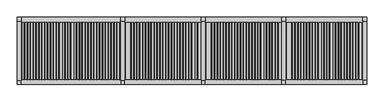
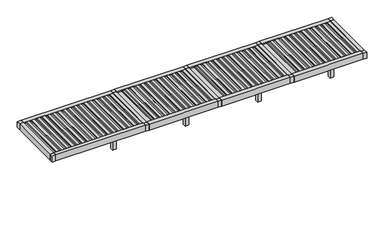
"""IFC4 building model written with IfcOpenShell, lengths in millimetres: proxy geometry, Renson_Camargue_Skye_Facade-Mounted_Patio covers : Renson_Camargue_Skye_Facade-Mounted_Patio covers."""

from ifc_helpers import new_model, si_unit, point, frame, frame_2d, origin, origin_with_axes, place, context, project, spatial, polyline, circle_curve, trimmed, segment, composite_curve, outline, extrude, source, transform, mapped, element, save


def generic_models_8b32eeaf(model_context):
    return source(origin(), model_context, "Body", "SweptSolid", [
        extrude(outline(composite_curve([segment(polyline([(2458.35, 10573.7289238), (2486.01198, 10576.1490335), (2487.3970364, 10604.984284), (2506.8911096, 10601.5469529), (2501.6075693, 10491.549838)]), True, "CONTINUOUS"), segment(trimmed(circle_curve(frame_2d((2486.6248435, 10492.26951)), 15.0), [point((2501.6075693, 10491.549838))], [point((2489.2295662, 10477.4973937))], False, "CARTESIAN"), True, "CONTINUOUS"), segment(polyline([(2489.2295662, 10477.4973937), (2470.0, 10474.1067023), (2470.0, 10386.3709263), (2487.0788237, 10383.3594689), (2486.3450182, 10368.0824984), (2458.35, 10365.6332517), (2458.35, 10573.7289238)]), True, "CONTINUOUS")], self_intersect=False)), frame((0.0, -1080.0, 0.0), z_axis=(0.0, 1.0, 0.0), x_axis=(0.0, 0.0, 1.0)), (0.0, 0.0, 1.0), 2160.0),
        extrude(outline(composite_curve([segment(polyline([(2458.35, 10358.7132078), (2486.01198, 10361.1333174), (2487.3970364, 10389.9685679), (2506.8911096, 10386.5312368), (2501.6075693, 10276.534122)]), True, "CONTINUOUS"), segment(trimmed(circle_curve(frame_2d((2486.6248435, 10277.2537939)), 15.0), [point((2501.6075693, 10276.534122))], [point((2489.2295662, 10262.4816776))], False, "CARTESIAN"), True, "CONTINUOUS"), segment(polyline([(2489.2295662, 10262.4816776), (2470.0, 10259.0909863), (2470.0, 10171.3552102), (2487.0788237, 10168.3437528), (2486.3450182, 10153.0667824), (2458.35, 10150.6175356), (2458.35, 10358.7132078)]), True, "CONTINUOUS")], self_intersect=False)), frame((0.0, -1080.0, 0.0), z_axis=(0.0, 1.0, 0.0), x_axis=(0.0, 0.0, 1.0)), (0.0, 0.0, 1.0), 2160.0),
        extrude(outline(composite_curve([segment(polyline([(2458.35, 10143.6974917), (2486.01198, 10146.1176014), (2487.3970364, 10174.9528519), (2506.8911096, 10171.5155208), (2501.6075693, 10061.5184059)]), True, "CONTINUOUS"), segment(trimmed(circle_curve(frame_2d((2486.6248435, 10062.2380779)), 15.0), [point((2501.6075693, 10061.5184059))], [point((2489.2295662, 10047.4659616))], False, "CARTESIAN"), True, "CONTINUOUS"), segment(polyline([(2489.2295662, 10047.4659616), (2470.0, 10044.0752702), (2470.0, 9956.3394942), (2487.0788237, 9953.3280368), (2486.3450182, 9938.0510663), (2458.35, 9935.6018196), (2458.35, 10143.6974917)]), True, "CONTINUOUS")], self_intersect=False)), frame((0.0, -1080.0, 0.0), z_axis=(0.0, 1.0, 0.0), x_axis=(0.0, 0.0, 1.0)), (0.0, 0.0, 1.0), 2160.0),
        extrude(outline(composite_curve([segment(polyline([(2458.35, 9928.6817757), (2486.01198, 9931.1018854), (2487.3970364, 9959.9371358), (2506.8911096, 9956.4998047), (2501.6075693, 9846.5026899)]), True, "CONTINUOUS"), segment(trimmed(circle_curve(frame_2d((2486.6248435, 9847.2223618)), 15.0), [point((2501.6075693, 9846.5026899))], [point((2489.2295662, 9832.4502455))], False, "CARTESIAN"), True, "CONTINUOUS"), segment(polyline([(2489.2295662, 9832.4502455), (2470.0, 9829.0595542), (2470.0, 9741.3237782), (2487.0788237, 9738.3123207), (2486.3450182, 9723.0353503), (2458.35, 9720.5861035), (2458.35, 9928.6817757)]), True, "CONTINUOUS")], self_intersect=False)), frame((0.0, -1080.0, 0.0), z_axis=(0.0, 1.0, 0.0), x_axis=(0.0, 0.0, 1.0)), (0.0, 0.0, 1.0), 2160.0),
        extrude(outline(composite_curve([segment(polyline([(2458.35, 9713.6660597), (2486.01198, 9716.0861693), (2487.3970364, 9744.9214198), (2506.8911096, 9741.4840887), (2501.6075693, 9631.4869738)]), True, "CONTINUOUS"), segment(trimmed(circle_curve(frame_2d((2486.6248435, 9632.2066458)), 15.0), [point((2501.6075693, 9631.4869738))], [point((2489.2295662, 9617.4345295))], False, "CARTESIAN"), True, "CONTINUOUS"), segment(polyline([(2489.2295662, 9617.4345295), (2470.0, 9614.0438381), (2470.0, 9526.3080621), (2487.0788237, 9523.2966047), (2486.3450182, 9508.0196342), (2458.35, 9505.5703875), (2458.35, 9713.6660597)]), True, "CONTINUOUS")], self_intersect=False)), frame((0.0, -1080.0, 0.0), z_axis=(0.0, 1.0, 0.0), x_axis=(0.0, 0.0, 1.0)), (0.0, 0.0, 1.0), 2160.0),
        extrude(outline(composite_curve([segment(polyline([(2458.35, 9498.6503436), (2486.01198, 9501.0704533), (2487.3970364, 9529.9057037), (2506.8911096, 9526.4683726), (2501.6075693, 9416.4712578)]), True, "CONTINUOUS"), segment(trimmed(circle_curve(frame_2d((2486.6248435, 9417.1909297)), 15.0), [point((2501.6075693, 9416.4712578))], [point((2489.2295662, 9402.4188134))], False, "CARTESIAN"), True, "CONTINUOUS"), segment(polyline([(2489.2295662, 9402.4188134), (2470.0, 9399.0281221), (2470.0, 9311.2923461), (2487.0788237, 9308.2808886), (2486.3450182, 9293.0039182), (2458.35, 9290.5546714), (2458.35, 9498.6503436)]), True, "CONTINUOUS")], self_intersect=False)), frame((0.0, -1080.0, 0.0), z_axis=(0.0, 1.0, 0.0), x_axis=(0.0, 0.0, 1.0)), (0.0, 0.0, 1.0), 2160.0),
        extrude(outline(composite_curve([segment(polyline([(2458.35, 9283.6346276), (2486.01198, 9286.0547372), (2487.3970364, 9314.8899877), (2506.8911096, 9311.4526566), (2501.6075693, 9201.4555418)]), True, "CONTINUOUS"), segment(trimmed(circle_curve(frame_2d((2486.6248435, 9202.1752137)), 15.0), [point((2501.6075693, 9201.4555418))], [point((2489.2295662, 9187.4030974))], False, "CARTESIAN"), True, "CONTINUOUS"), segment(polyline([(2489.2295662, 9187.4030974), (2470.0, 9184.012406), (2470.0, 9096.27663), (2487.0788237, 9093.2651726), (2486.3450182, 9077.9882021), (2458.35, 9075.5389554), (2458.35, 9283.6346276)]), True, "CONTINUOUS")], self_intersect=False)), frame((0.0, -1080.0, 0.0), z_axis=(0.0, 1.0, 0.0), x_axis=(0.0, 0.0, 1.0)), (0.0, 0.0, 1.0), 2160.0),
        extrude(outline(composite_curve([segment(polyline([(2458.35, 9068.6189115), (2486.01198, 9071.0390212), (2487.3970364, 9099.8742716), (2506.8911096, 9096.4369406), (2501.6075693, 8986.4398257)]), True, "CONTINUOUS"), segment(trimmed(circle_curve(frame_2d((2486.6248435, 8987.1594976)), 15.0), [point((2501.6075693, 8986.4398257))], [point((2489.2295662, 8972.3873813))], False, "CARTESIAN"), True, "CONTINUOUS"), segment(polyline([(2489.2295662, 8972.3873813), (2470.0, 8968.99669), (2470.0, 8881.260914), (2487.0788237, 8878.2494566), (2486.3450182, 8862.9724861), (2458.35, 8860.5232394), (2458.35, 9068.6189115)]), True, "CONTINUOUS")], self_intersect=False)), frame((0.0, -1080.0, 0.0), z_axis=(0.0, 1.0, 0.0), x_axis=(0.0, 0.0, 1.0)), (0.0, 0.0, 1.0), 2160.0),
        extrude(outline(composite_curve([segment(polyline([(2458.35, 8853.6031955), (2486.01198, 8856.0233051), (2487.3970364, 8884.8585556), (2506.8911096, 8881.4212245), (2501.6075693, 8771.4241097)]), True, "CONTINUOUS"), segment(trimmed(circle_curve(frame_2d((2486.6248435, 8772.1437816)), 15.0), [point((2501.6075693, 8771.4241097))], [point((2489.2295662, 8757.3716653))], False, "CARTESIAN"), True, "CONTINUOUS"), segment(polyline([(2489.2295662, 8757.3716653), (2470.0, 8753.980974), (2470.0, 8666.2451979), (2487.0788237, 8663.2337405), (2486.3450182, 8647.95677), (2458.35, 8645.5075233), (2458.35, 8853.6031955)]), True, "CONTINUOUS")], self_intersect=False)), frame((0.0, -1080.0, 0.0), z_axis=(0.0, 1.0, 0.0), x_axis=(0.0, 0.0, 1.0)), (0.0, 0.0, 1.0), 2160.0),
        extrude(outline(composite_curve([segment(polyline([(2458.35, 8638.5874794), (2486.01198, 8641.0075891), (2487.3970364, 8669.8428395), (2506.8911096, 8666.4055085), (2501.6075693, 8556.4083936)]), True, "CONTINUOUS"), segment(trimmed(circle_curve(frame_2d((2486.6248435, 8557.1280655)), 15.0), [point((2501.6075693, 8556.4083936))], [point((2489.2295662, 8542.3559492))], False, "CARTESIAN"), True, "CONTINUOUS"), segment(polyline([(2489.2295662, 8542.3559492), (2470.0, 8538.9652579), (2470.0, 8451.2294819), (2487.0788237, 8448.2180245), (2486.3450182, 8432.941054), (2458.35, 8430.4918073), (2458.35, 8638.5874794)]), True, "CONTINUOUS")], self_intersect=False)), frame((0.0, -1080.0, 0.0), z_axis=(0.0, 1.0, 0.0), x_axis=(0.0, 0.0, 1.0)), (0.0, 0.0, 1.0), 2160.0),
        extrude(outline(composite_curve([segment(polyline([(2458.35, 10788.7446399), (2486.01198, 10791.1647495), (2487.3970364, 10820.0), (2506.8911096, 10816.5626689), (2501.6075693, 10706.5655541)]), True, "CONTINUOUS"), segment(trimmed(circle_curve(frame_2d((2486.6248435, 10707.285226)), 15.0), [point((2501.6075693, 10706.5655541))], [point((2489.2295662, 10692.5131097))], False, "CARTESIAN"), True, "CONTINUOUS"), segment(polyline([(2489.2295662, 10692.5131097), (2470.0, 10689.1224184), (2470.0, 10601.3866423), (2487.0788237, 10598.3751849), (2486.3450182, 10583.0982144), (2458.35, 10580.6489677), (2458.35, 10788.7446399)]), True, "CONTINUOUS")], self_intersect=False)), frame((0.0, -1080.0, 0.0), z_axis=(0.0, 1.0, 0.0), x_axis=(0.0, 0.0, 1.0)), (0.0, 0.0, 1.0), 2160.0),
        extrude(outline(composite_curve([segment(polyline([(2458.35, 8423.5717634), (2486.01198, 8425.991873), (2487.3970364, 8454.8271235), (2506.8911096, 8451.3897924), (2501.6075693, 8341.3926776)]), True, "CONTINUOUS"), segment(trimmed(circle_curve(frame_2d((2486.6248435, 8342.1123495)), 15.0), [point((2501.6075693, 8341.3926776))], [point((2489.2295662, 8327.3402332))], False, "CARTESIAN"), True, "CONTINUOUS"), segment(polyline([(2489.2295662, 8327.3402332), (2470.0, 8323.9495419), (2470.0, 8236.2137658), (2487.0788237, 8233.2023084), (2486.3450182, 8217.9253379), (2458.35, 8215.4760912), (2458.35, 8423.5717634)]), True, "CONTINUOUS")], self_intersect=False)), frame((0.0, -1080.0, 0.0), z_axis=(0.0, 1.0, 0.0), x_axis=(0.0, 0.0, 1.0)), (0.0, 0.0, 1.0), 2160.0),
        extrude(outline(composite_curve([segment(polyline([(2458.35, 7573.7289238), (2486.01198, 7576.1490335), (2487.3970364, 7604.984284), (2506.8911096, 7601.5469529), (2501.6075693, 7491.549838)]), True, "CONTINUOUS"), segment(trimmed(circle_curve(frame_2d((2486.6248435, 7492.26951)), 15.0), [point((2501.6075693, 7491.549838))], [point((2489.2295662, 7477.4973937))], False, "CARTESIAN"), True, "CONTINUOUS"), segment(polyline([(2489.2295662, 7477.4973937), (2470.0, 7474.1067023), (2470.0, 7386.3709263), (2487.0788237, 7383.3594689), (2486.3450182, 7368.0824984), (2458.35, 7365.6332517), (2458.35, 7573.7289238)]), True, "CONTINUOUS")], self_intersect=False)), frame((0.0, -1080.0, 0.0), z_axis=(0.0, 1.0, 0.0), x_axis=(0.0, 0.0, 1.0)), (0.0, 0.0, 1.0), 2160.0),
        extrude(outline(composite_curve([segment(polyline([(2458.35, 7358.7132078), (2486.01198, 7361.1333174), (2487.3970364, 7389.9685679), (2506.8911096, 7386.5312368), (2501.6075693, 7276.534122)]), True, "CONTINUOUS"), segment(trimmed(circle_curve(frame_2d((2486.6248435, 7277.2537939)), 15.0), [point((2501.6075693, 7276.534122))], [point((2489.2295662, 7262.4816776))], False, "CARTESIAN"), True, "CONTINUOUS"), segment(polyline([(2489.2295662, 7262.4816776), (2470.0, 7259.0909863), (2470.0, 7171.3552102), (2487.0788237, 7168.3437528), (2486.3450182, 7153.0667824), (2458.35, 7150.6175356), (2458.35, 7358.7132078)]), True, "CONTINUOUS")], self_intersect=False)), frame((0.0, -1080.0, 0.0), z_axis=(0.0, 1.0, 0.0), x_axis=(0.0, 0.0, 1.0)), (0.0, 0.0, 1.0), 2160.0),
        extrude(outline(composite_curve([segment(polyline([(2458.35, 7143.6974917), (2486.01198, 7146.1176014), (2487.3970364, 7174.9528519), (2506.8911096, 7171.5155208), (2501.6075693, 7061.5184059)]), True, "CONTINUOUS"), segment(trimmed(circle_curve(frame_2d((2486.6248435, 7062.2380779)), 15.0), [point((2501.6075693, 7061.5184059))], [point((2489.2295662, 7047.4659616))], False, "CARTESIAN"), True, "CONTINUOUS"), segment(polyline([(2489.2295662, 7047.4659616), (2470.0, 7044.0752702), (2470.0, 6956.3394942), (2487.0788237, 6953.3280368), (2486.3450182, 6938.0510663), (2458.35, 6935.6018196), (2458.35, 7143.6974917)]), True, "CONTINUOUS")], self_intersect=False)), frame((0.0, -1080.0, 0.0), z_axis=(0.0, 1.0, 0.0), x_axis=(0.0, 0.0, 1.0)), (0.0, 0.0, 1.0), 2160.0),
        extrude(outline(composite_curve([segment(polyline([(2458.35, 6928.6817757), (2486.01198, 6931.1018854), (2487.3970364, 6959.9371358), (2506.8911096, 6956.4998047), (2501.6075693, 6846.5026899)]), True, "CONTINUOUS"), segment(trimmed(circle_curve(frame_2d((2486.6248435, 6847.2223618)), 15.0), [point((2501.6075693, 6846.5026899))], [point((2489.2295662, 6832.4502455))], False, "CARTESIAN"), True, "CONTINUOUS"), segment(polyline([(2489.2295662, 6832.4502455), (2470.0, 6829.0595542), (2470.0, 6741.3237782), (2487.0788237, 6738.3123207), (2486.3450182, 6723.0353503), (2458.35, 6720.5861035), (2458.35, 6928.6817757)]), True, "CONTINUOUS")], self_intersect=False)), frame((0.0, -1080.0, 0.0), z_axis=(0.0, 1.0, 0.0), x_axis=(0.0, 0.0, 1.0)), (0.0, 0.0, 1.0), 2160.0),
        extrude(outline(composite_curve([segment(polyline([(2458.35, 6713.6660597), (2486.01198, 6716.0861693), (2487.3970364, 6744.9214198), (2506.8911096, 6741.4840887), (2501.6075693, 6631.4869738)]), True, "CONTINUOUS"), segment(trimmed(circle_curve(frame_2d((2486.6248435, 6632.2066458)), 15.0), [point((2501.6075693, 6631.4869738))], [point((2489.2295662, 6617.4345295))], False, "CARTESIAN"), True, "CONTINUOUS"), segment(polyline([(2489.2295662, 6617.4345295), (2470.0, 6614.0438381), (2470.0, 6526.3080621), (2487.0788237, 6523.2966047), (2486.3450182, 6508.0196342), (2458.35, 6505.5703875), (2458.35, 6713.6660597)]), True, "CONTINUOUS")], self_intersect=False)), frame((0.0, -1080.0, 0.0), z_axis=(0.0, 1.0, 0.0), x_axis=(0.0, 0.0, 1.0)), (0.0, 0.0, 1.0), 2160.0),
        extrude(outline(composite_curve([segment(polyline([(2458.35, 6498.6503436), (2486.01198, 6501.0704533), (2487.3970364, 6529.9057037), (2506.8911096, 6526.4683726), (2501.6075693, 6416.4712578)]), True, "CONTINUOUS"), segment(trimmed(circle_curve(frame_2d((2486.6248435, 6417.1909297)), 15.0), [point((2501.6075693, 6416.4712578))], [point((2489.2295662, 6402.4188134))], False, "CARTESIAN"), True, "CONTINUOUS"), segment(polyline([(2489.2295662, 6402.4188134), (2470.0, 6399.0281221), (2470.0, 6311.2923461), (2487.0788237, 6308.2808886), (2486.3450182, 6293.0039182), (2458.35, 6290.5546714), (2458.35, 6498.6503436)]), True, "CONTINUOUS")], self_intersect=False)), frame((0.0, -1080.0, 0.0), z_axis=(0.0, 1.0, 0.0), x_axis=(0.0, 0.0, 1.0)), (0.0, 0.0, 1.0), 2160.0),
        extrude(outline(composite_curve([segment(polyline([(2458.35, 6283.6346276), (2486.01198, 6286.0547372), (2487.3970364, 6314.8899877), (2506.8911096, 6311.4526566), (2501.6075693, 6201.4555418)]), True, "CONTINUOUS"), segment(trimmed(circle_curve(frame_2d((2486.6248435, 6202.1752137)), 15.0), [point((2501.6075693, 6201.4555418))], [point((2489.2295662, 6187.4030974))], False, "CARTESIAN"), True, "CONTINUOUS"), segment(polyline([(2489.2295662, 6187.4030974), (2470.0, 6184.012406), (2470.0, 6096.27663), (2487.0788237, 6093.2651726), (2486.3450182, 6077.9882021), (2458.35, 6075.5389554), (2458.35, 6283.6346276)]), True, "CONTINUOUS")], self_intersect=False)), frame((0.0, -1080.0, 0.0), z_axis=(0.0, 1.0, 0.0), x_axis=(0.0, 0.0, 1.0)), (0.0, 0.0, 1.0), 2160.0),
        extrude(outline(composite_curve([segment(polyline([(2458.35, 6068.6189115), (2486.01198, 6071.0390212), (2487.3970364, 6099.8742716), (2506.8911096, 6096.4369406), (2501.6075693, 5986.4398257)]), True, "CONTINUOUS"), segment(trimmed(circle_curve(frame_2d((2486.6248435, 5987.1594976)), 15.0), [point((2501.6075693, 5986.4398257))], [point((2489.2295662, 5972.3873813))], False, "CARTESIAN"), True, "CONTINUOUS"), segment(polyline([(2489.2295662, 5972.3873813), (2470.0, 5968.99669), (2470.0, 5881.260914), (2487.0788237, 5878.2494566), (2486.3450182, 5862.9724861), (2458.35, 5860.5232394), (2458.35, 6068.6189115)]), True, "CONTINUOUS")], self_intersect=False)), frame((0.0, -1080.0, 0.0), z_axis=(0.0, 1.0, 0.0), x_axis=(0.0, 0.0, 1.0)), (0.0, 0.0, 1.0), 2160.0),
        extrude(outline(composite_curve([segment(polyline([(2458.35, 5853.6031955), (2486.01198, 5856.0233051), (2487.3970364, 5884.8585556), (2506.8911096, 5881.4212245), (2501.6075693, 5771.4241097)]), True, "CONTINUOUS"), segment(trimmed(circle_curve(frame_2d((2486.6248435, 5772.1437816)), 15.0), [point((2501.6075693, 5771.4241097))], [point((2489.2295662, 5757.3716653))], False, "CARTESIAN"), True, "CONTINUOUS"), segment(polyline([(2489.2295662, 5757.3716653), (2470.0, 5753.980974), (2470.0, 5666.2451979), (2487.0788237, 5663.2337405), (2486.3450182, 5647.95677), (2458.35, 5645.5075233), (2458.35, 5853.6031955)]), True, "CONTINUOUS")], self_intersect=False)), frame((0.0, -1080.0, 0.0), z_axis=(0.0, 1.0, 0.0), x_axis=(0.0, 0.0, 1.0)), (0.0, 0.0, 1.0), 2160.0),
        extrude(outline(composite_curve([segment(polyline([(2458.35, 5638.5874794), (2486.01198, 5641.0075891), (2487.3970364, 5669.8428395), (2506.8911096, 5666.4055085), (2501.6075693, 5556.4083936)]), True, "CONTINUOUS"), segment(trimmed(circle_curve(frame_2d((2486.6248435, 5557.1280655)), 15.0), [point((2501.6075693, 5556.4083936))], [point((2489.2295662, 5542.3559492))], False, "CARTESIAN"), True, "CONTINUOUS"), segment(polyline([(2489.2295662, 5542.3559492), (2470.0, 5538.9652579), (2470.0, 5451.2294819), (2487.0788237, 5448.2180245), (2486.3450182, 5432.941054), (2458.35, 5430.4918073), (2458.35, 5638.5874794)]), True, "CONTINUOUS")], self_intersect=False)), frame((0.0, -1080.0, 0.0), z_axis=(0.0, 1.0, 0.0), x_axis=(0.0, 0.0, 1.0)), (0.0, 0.0, 1.0), 2160.0),
        extrude(outline(composite_curve([segment(polyline([(2458.35, 7788.7446399), (2486.01198, 7791.1647495), (2487.3970364, 7820.0), (2506.8911096, 7816.5626689), (2501.6075693, 7706.5655541)]), True, "CONTINUOUS"), segment(trimmed(circle_curve(frame_2d((2486.6248435, 7707.285226)), 15.0), [point((2501.6075693, 7706.5655541))], [point((2489.2295662, 7692.5131097))], False, "CARTESIAN"), True, "CONTINUOUS"), segment(polyline([(2489.2295662, 7692.5131097), (2470.0, 7689.1224184), (2470.0, 7601.3866423), (2487.0788237, 7598.3751849), (2486.3450182, 7583.0982144), (2458.35, 7580.6489677), (2458.35, 7788.7446399)]), True, "CONTINUOUS")], self_intersect=False)), frame((0.0, -1080.0, 0.0), z_axis=(0.0, 1.0, 0.0), x_axis=(0.0, 0.0, 1.0)), (0.0, 0.0, 1.0), 2160.0),
        extrude(outline(composite_curve([segment(polyline([(2458.35, 5423.5717634), (2486.01198, 5425.991873), (2487.3970364, 5454.8271235), (2506.8911096, 5451.3897924), (2501.6075693, 5341.3926776)]), True, "CONTINUOUS"), segment(trimmed(circle_curve(frame_2d((2486.6248435, 5342.1123495)), 15.0), [point((2501.6075693, 5341.3926776))], [point((2489.2295662, 5327.3402332))], False, "CARTESIAN"), True, "CONTINUOUS"), segment(polyline([(2489.2295662, 5327.3402332), (2470.0, 5323.9495419), (2470.0, 5236.2137658), (2487.0788237, 5233.2023084), (2486.3450182, 5217.9253379), (2458.35, 5215.4760912), (2458.35, 5423.5717634)]), True, "CONTINUOUS")], self_intersect=False)), frame((0.0, -1080.0, 0.0), z_axis=(0.0, 1.0, 0.0), x_axis=(0.0, 0.0, 1.0)), (0.0, 0.0, 1.0), 2160.0),
        extrude(outline(composite_curve([segment(polyline([(2458.35, 4573.7289238), (2486.01198, 4576.1490335), (2487.3970364, 4604.984284), (2506.8911096, 4601.5469529), (2501.6075693, 4491.549838)]), True, "CONTINUOUS"), segment(trimmed(circle_curve(frame_2d((2486.6248435, 4492.26951)), 15.0), [point((2501.6075693, 4491.549838))], [point((2489.2295662, 4477.4973937))], False, "CARTESIAN"), True, "CONTINUOUS"), segment(polyline([(2489.2295662, 4477.4973937), (2470.0, 4474.1067023), (2470.0, 4386.3709263), (2487.0788237, 4383.3594689), (2486.3450182, 4368.0824984), (2458.35, 4365.6332517), (2458.35, 4573.7289238)]), True, "CONTINUOUS")], self_intersect=False)), frame((0.0, -1080.0, 0.0), z_axis=(0.0, 1.0, 0.0), x_axis=(0.0, 0.0, 1.0)), (0.0, 0.0, 1.0), 2160.0),
        extrude(outline(composite_curve([segment(polyline([(2458.35, 4358.7132078), (2486.01198, 4361.1333174), (2487.3970364, 4389.9685679), (2506.8911096, 4386.5312368), (2501.6075693, 4276.534122)]), True, "CONTINUOUS"), segment(trimmed(circle_curve(frame_2d((2486.6248435, 4277.2537939)), 15.0), [point((2501.6075693, 4276.534122))], [point((2489.2295662, 4262.4816776))], False, "CARTESIAN"), True, "CONTINUOUS"), segment(polyline([(2489.2295662, 4262.4816776), (2470.0, 4259.0909863), (2470.0, 4171.3552102), (2487.0788237, 4168.3437528), (2486.3450182, 4153.0667824), (2458.35, 4150.6175356), (2458.35, 4358.7132078)]), True, "CONTINUOUS")], self_intersect=False)), frame((0.0, -1080.0, 0.0), z_axis=(0.0, 1.0, 0.0), x_axis=(0.0, 0.0, 1.0)), (0.0, 0.0, 1.0), 2160.0),
        extrude(outline(composite_curve([segment(polyline([(2458.35, 4143.6974917), (2486.01198, 4146.1176014), (2487.3970364, 4174.9528519), (2506.8911096, 4171.5155208), (2501.6075693, 4061.5184059)]), True, "CONTINUOUS"), segment(trimmed(circle_curve(frame_2d((2486.6248435, 4062.2380779)), 15.0), [point((2501.6075693, 4061.5184059))], [point((2489.2295662, 4047.4659616))], False, "CARTESIAN"), True, "CONTINUOUS"), segment(polyline([(2489.2295662, 4047.4659616), (2470.0, 4044.0752702), (2470.0, 3956.3394942), (2487.0788237, 3953.3280368), (2486.3450182, 3938.0510663), (2458.35, 3935.6018196), (2458.35, 4143.6974917)]), True, "CONTINUOUS")], self_intersect=False)), frame((0.0, -1080.0, 0.0), z_axis=(0.0, 1.0, 0.0), x_axis=(0.0, 0.0, 1.0)), (0.0, 0.0, 1.0), 2160.0),
        extrude(outline(composite_curve([segment(polyline([(2458.35, 3928.6817757), (2486.01198, 3931.1018854), (2487.3970364, 3959.9371358), (2506.8911096, 3956.4998047), (2501.6075693, 3846.5026899)]), True, "CONTINUOUS"), segment(trimmed(circle_curve(frame_2d((2486.6248435, 3847.2223618)), 15.0), [point((2501.6075693, 3846.5026899))], [point((2489.2295662, 3832.4502455))], False, "CARTESIAN"), True, "CONTINUOUS"), segment(polyline([(2489.2295662, 3832.4502455), (2470.0, 3829.0595542), (2470.0, 3741.3237782), (2487.0788237, 3738.3123207), (2486.3450182, 3723.0353503), (2458.35, 3720.5861035), (2458.35, 3928.6817757)]), True, "CONTINUOUS")], self_intersect=False)), frame((0.0, -1080.0, 0.0), z_axis=(0.0, 1.0, 0.0), x_axis=(0.0, 0.0, 1.0)), (0.0, 0.0, 1.0), 2160.0),
        extrude(outline(composite_curve([segment(polyline([(2458.35, 3713.6660597), (2486.01198, 3716.0861693), (2487.3970364, 3744.9214198), (2506.8911096, 3741.4840887), (2501.6075693, 3631.4869738)]), True, "CONTINUOUS"), segment(trimmed(circle_curve(frame_2d((2486.6248435, 3632.2066458)), 15.0), [point((2501.6075693, 3631.4869738))], [point((2489.2295662, 3617.4345295))], False, "CARTESIAN"), True, "CONTINUOUS"), segment(polyline([(2489.2295662, 3617.4345295), (2470.0, 3614.0438381), (2470.0, 3526.3080621), (2487.0788237, 3523.2966047), (2486.3450182, 3508.0196342), (2458.35, 3505.5703875), (2458.35, 3713.6660597)]), True, "CONTINUOUS")], self_intersect=False)), frame((0.0, -1080.0, 0.0), z_axis=(0.0, 1.0, 0.0), x_axis=(0.0, 0.0, 1.0)), (0.0, 0.0, 1.0), 2160.0),
        extrude(outline(composite_curve([segment(polyline([(2458.35, 3498.6503436), (2486.01198, 3501.0704533), (2487.3970364, 3529.9057037), (2506.8911096, 3526.4683726), (2501.6075693, 3416.4712578)]), True, "CONTINUOUS"), segment(trimmed(circle_curve(frame_2d((2486.6248435, 3417.1909297)), 15.0), [point((2501.6075693, 3416.4712578))], [point((2489.2295662, 3402.4188134))], False, "CARTESIAN"), True, "CONTINUOUS"), segment(polyline([(2489.2295662, 3402.4188134), (2470.0, 3399.0281221), (2470.0, 3311.2923461), (2487.0788237, 3308.2808886), (2486.3450182, 3293.0039182), (2458.35, 3290.5546714), (2458.35, 3498.6503436)]), True, "CONTINUOUS")], self_intersect=False)), frame((0.0, -1080.0, 0.0), z_axis=(0.0, 1.0, 0.0), x_axis=(0.0, 0.0, 1.0)), (0.0, 0.0, 1.0), 2160.0),
        extrude(outline(composite_curve([segment(polyline([(2458.35, 3283.6346276), (2486.01198, 3286.0547372), (2487.3970364, 3314.8899877), (2506.8911096, 3311.4526566), (2501.6075693, 3201.4555418)]), True, "CONTINUOUS"), segment(trimmed(circle_curve(frame_2d((2486.6248435, 3202.1752137)), 15.0), [point((2501.6075693, 3201.4555418))], [point((2489.2295662, 3187.4030974))], False, "CARTESIAN"), True, "CONTINUOUS"), segment(polyline([(2489.2295662, 3187.4030974), (2470.0, 3184.012406), (2470.0, 3096.27663), (2487.0788237, 3093.2651726), (2486.3450182, 3077.9882021), (2458.35, 3075.5389554), (2458.35, 3283.6346276)]), True, "CONTINUOUS")], self_intersect=False)), frame((0.0, -1080.0, 0.0), z_axis=(0.0, 1.0, 0.0), x_axis=(0.0, 0.0, 1.0)), (0.0, 0.0, 1.0), 2160.0),
        extrude(outline(composite_curve([segment(polyline([(2458.35, 3068.6189115), (2486.01198, 3071.0390212), (2487.3970364, 3099.8742716), (2506.8911096, 3096.4369406), (2501.6075693, 2986.4398257)]), True, "CONTINUOUS"), segment(trimmed(circle_curve(frame_2d((2486.6248435, 2987.1594976)), 15.0), [point((2501.6075693, 2986.4398257))], [point((2489.2295662, 2972.3873813))], False, "CARTESIAN"), True, "CONTINUOUS"), segment(polyline([(2489.2295662, 2972.3873813), (2470.0, 2968.99669), (2470.0, 2881.260914), (2487.0788237, 2878.2494566), (2486.3450182, 2862.9724861), (2458.35, 2860.5232394), (2458.35, 3068.6189115)]), True, "CONTINUOUS")], self_intersect=False)), frame((0.0, -1080.0, 0.0), z_axis=(0.0, 1.0, 0.0), x_axis=(0.0, 0.0, 1.0)), (0.0, 0.0, 1.0), 2160.0),
        extrude(outline(composite_curve([segment(polyline([(2458.35, 2853.6031955), (2486.01198, 2856.0233051), (2487.3970364, 2884.8585556), (2506.8911096, 2881.4212245), (2501.6075693, 2771.4241097)]), True, "CONTINUOUS"), segment(trimmed(circle_curve(frame_2d((2486.6248435, 2772.1437816)), 15.0), [point((2501.6075693, 2771.4241097))], [point((2489.2295662, 2757.3716653))], False, "CARTESIAN"), True, "CONTINUOUS"), segment(polyline([(2489.2295662, 2757.3716653), (2470.0, 2753.980974), (2470.0, 2666.2451979), (2487.0788237, 2663.2337405), (2486.3450182, 2647.95677), (2458.35, 2645.5075233), (2458.35, 2853.6031955)]), True, "CONTINUOUS")], self_intersect=False)), frame((0.0, -1080.0, 0.0), z_axis=(0.0, 1.0, 0.0), x_axis=(0.0, 0.0, 1.0)), (0.0, 0.0, 1.0), 2160.0),
        extrude(outline(composite_curve([segment(polyline([(2458.35, 2638.5874794), (2486.01198, 2641.0075891), (2487.3970364, 2669.8428395), (2506.8911096, 2666.4055085), (2501.6075693, 2556.4083936)]), True, "CONTINUOUS"), segment(trimmed(circle_curve(frame_2d((2486.6248435, 2557.1280655)), 15.0), [point((2501.6075693, 2556.4083936))], [point((2489.2295662, 2542.3559492))], False, "CARTESIAN"), True, "CONTINUOUS"), segment(polyline([(2489.2295662, 2542.3559492), (2470.0, 2538.9652579), (2470.0, 2451.2294819), (2487.0788237, 2448.2180245), (2486.3450182, 2432.941054), (2458.35, 2430.4918073), (2458.35, 2638.5874794)]), True, "CONTINUOUS")], self_intersect=False)), frame((0.0, -1080.0, 0.0), z_axis=(0.0, 1.0, 0.0), x_axis=(0.0, 0.0, 1.0)), (0.0, 0.0, 1.0), 2160.0),
        extrude(outline(composite_curve([segment(polyline([(2458.35, 4788.7446399), (2486.01198, 4791.1647495), (2487.3970364, 4820.0), (2506.8911096, 4816.5626689), (2501.6075693, 4706.5655541)]), True, "CONTINUOUS"), segment(trimmed(circle_curve(frame_2d((2486.6248435, 4707.285226)), 15.0), [point((2501.6075693, 4706.5655541))], [point((2489.2295662, 4692.5131097))], False, "CARTESIAN"), True, "CONTINUOUS"), segment(polyline([(2489.2295662, 4692.5131097), (2470.0, 4689.1224184), (2470.0, 4601.3866423), (2487.0788237, 4598.3751849), (2486.3450182, 4583.0982144), (2458.35, 4580.6489677), (2458.35, 4788.7446399)]), True, "CONTINUOUS")], self_intersect=False)), frame((0.0, -1080.0, 0.0), z_axis=(0.0, 1.0, 0.0), x_axis=(0.0, 0.0, 1.0)), (0.0, 0.0, 1.0), 2160.0),
        extrude(outline(composite_curve([segment(polyline([(2458.35, 2423.5717634), (2486.01198, 2425.991873), (2487.3970364, 2454.8271235), (2506.8911096, 2451.3897924), (2501.6075693, 2341.3926776)]), True, "CONTINUOUS"), segment(trimmed(circle_curve(frame_2d((2486.6248435, 2342.1123495)), 15.0), [point((2501.6075693, 2341.3926776))], [point((2489.2295662, 2327.3402332))], False, "CARTESIAN"), True, "CONTINUOUS"), segment(polyline([(2489.2295662, 2327.3402332), (2470.0, 2323.9495419), (2470.0, 2236.2137658), (2487.0788237, 2233.2023084), (2486.3450182, 2217.9253379), (2458.35, 2215.4760912), (2458.35, 2423.5717634)]), True, "CONTINUOUS")], self_intersect=False)), frame((0.0, -1080.0, 0.0), z_axis=(0.0, 1.0, 0.0), x_axis=(0.0, 0.0, 1.0)), (0.0, 0.0, 1.0), 2160.0),
        extrude(outline(composite_curve([segment(polyline([(2458.35, 1573.7338351), (2486.01198, 1576.1539448), (2487.3970364, 1604.9891952), (2506.8911096, 1601.5518641), (2501.6075693, 1491.5547493)]), True, "CONTINUOUS"), segment(trimmed(circle_curve(frame_2d((2486.6248435, 1492.2744212)), 15.0), [point((2501.6075693, 1491.5547493))], [point((2489.2295662, 1477.5023049))], False, "CARTESIAN"), True, "CONTINUOUS"), segment(polyline([(2489.2295662, 1477.5023049), (2470.0, 1474.1116136), (2470.0, 1386.3758376), (2487.0788237, 1383.3643801), (2486.3450182, 1368.0874097), (2458.35, 1365.6381629), (2458.35, 1573.7338351)]), True, "CONTINUOUS")], self_intersect=False)), frame((0.0, -1080.0, 0.0), z_axis=(0.0, 1.0, 0.0), x_axis=(0.0, 0.0, 1.0)), (0.0, 0.0, 1.0), 2160.0),
        extrude(outline(composite_curve([segment(polyline([(2458.35, 1358.7230303), (2486.01198, 1361.14314), (2487.3970364, 1389.9783904), (2506.8911096, 1386.5410594), (2501.6075693, 1276.5439445)]), True, "CONTINUOUS"), segment(trimmed(circle_curve(frame_2d((2486.6248435, 1277.2636164)), 15.0), [point((2501.6075693, 1276.5439445))], [point((2489.2295662, 1262.4915001))], False, "CARTESIAN"), True, "CONTINUOUS"), segment(polyline([(2489.2295662, 1262.4915001), (2470.0, 1259.1008088), (2470.0, 1171.3650328), (2487.0788237, 1168.3535754), (2486.3450182, 1153.0766049), (2458.35, 1150.6273582), (2458.35, 1358.7230303)]), True, "CONTINUOUS")], self_intersect=False)), frame((0.0, -1080.0, 0.0), z_axis=(0.0, 1.0, 0.0), x_axis=(0.0, 0.0, 1.0)), (0.0, 0.0, 1.0), 2160.0),
        extrude(outline(composite_curve([segment(polyline([(2458.35, 1143.7122255), (2486.01198, 1146.1323352), (2487.3970364, 1174.9675857), (2506.8911096, 1171.5302546), (2501.6075693, 1061.5331397)]), True, "CONTINUOUS"), segment(trimmed(circle_curve(frame_2d((2486.6248435, 1062.2528117)), 15.0), [point((2501.6075693, 1061.5331397))], [point((2489.2295662, 1047.4806954))], False, "CARTESIAN"), True, "CONTINUOUS"), segment(polyline([(2489.2295662, 1047.4806954), (2470.0, 1044.090004), (2470.0, 956.354228), (2487.0788237, 953.3427706), (2486.3450182, 938.0658001), (2458.35, 935.6165534), (2458.35, 1143.7122255)]), True, "CONTINUOUS")], self_intersect=False)), frame((0.0, -1080.0, 0.0), z_axis=(0.0, 1.0, 0.0), x_axis=(0.0, 0.0, 1.0)), (0.0, 0.0, 1.0), 2160.0),
        extrude(outline(composite_curve([segment(polyline([(2458.35, 928.7014208), (2486.01198, 931.1215304), (2487.3970364, 959.9567809), (2506.8911096, 956.5194498), (2501.6075693, 846.5223349)]), True, "CONTINUOUS"), segment(trimmed(circle_curve(frame_2d((2486.6248435, 847.2420069)), 15.0), [point((2501.6075693, 846.5223349))], [point((2489.2295662, 832.4698906))], False, "CARTESIAN"), True, "CONTINUOUS"), segment(polyline([(2489.2295662, 832.4698906), (2470.0, 829.0791992), (2470.0, 741.3434232), (2487.0788237, 738.3319658), (2486.3450182, 723.0549953), (2458.35, 720.6057486), (2458.35, 928.7014208)]), True, "CONTINUOUS")], self_intersect=False)), frame((0.0, -1080.0, 0.0), z_axis=(0.0, 1.0, 0.0), x_axis=(0.0, 0.0, 1.0)), (0.0, 0.0, 1.0), 2160.0),
        extrude(outline(composite_curve([segment(polyline([(2458.35, 713.690616), (2486.01198, 716.1107256), (2487.3970364, 744.9459761), (2506.8911096, 741.508645), (2501.6075693, 631.5115302)]), True, "CONTINUOUS"), segment(trimmed(circle_curve(frame_2d((2486.6248435, 632.2312021)), 15.0), [point((2501.6075693, 631.5115302))], [point((2489.2295662, 617.4590858))], False, "CARTESIAN"), True, "CONTINUOUS"), segment(polyline([(2489.2295662, 617.4590858), (2470.0, 614.0683945), (2470.0, 526.3326184), (2487.0788237, 523.321161), (2486.3450182, 508.0441905), (2458.35, 505.5949438), (2458.35, 713.690616)]), True, "CONTINUOUS")], self_intersect=False)), frame((0.0, -1080.0, 0.0), z_axis=(0.0, 1.0, 0.0), x_axis=(0.0, 0.0, 1.0)), (0.0, 0.0, 1.0), 2160.0),
        extrude(outline(composite_curve([segment(polyline([(2458.35, 498.6798112), (2486.01198, 501.0999209), (2487.3970364, 529.9351713), (2506.8911096, 526.4978402), (2501.6075693, 416.5007254)]), True, "CONTINUOUS"), segment(trimmed(circle_curve(frame_2d((2486.6248435, 417.2203973)), 15.0), [point((2501.6075693, 416.5007254))], [point((2489.2295662, 402.448281))], False, "CARTESIAN"), True, "CONTINUOUS"), segment(polyline([(2489.2295662, 402.448281), (2470.0, 399.0575897), (2470.0, 311.3218136), (2487.0788237, 308.3103562), (2486.3450182, 293.0333858), (2458.35, 290.584139), (2458.35, 498.6798112)]), True, "CONTINUOUS")], self_intersect=False)), frame((0.0, -1080.0, 0.0), z_axis=(0.0, 1.0, 0.0), x_axis=(0.0, 0.0, 1.0)), (0.0, 0.0, 1.0), 2160.0),
        extrude(outline(composite_curve([segment(polyline([(2458.35, 283.6690064), (2486.01198, 286.0891161), (2487.3970364, 314.9243665), (2506.8911096, 311.4870355), (2501.6075693, 201.4899206)]), True, "CONTINUOUS"), segment(trimmed(circle_curve(frame_2d((2486.6248435, 202.2095925)), 15.0), [point((2501.6075693, 201.4899206))], [point((2489.2295662, 187.4374762))], False, "CARTESIAN"), True, "CONTINUOUS"), segment(polyline([(2489.2295662, 187.4374762), (2470.0, 184.0467849), (2470.0, 96.3110089), (2487.0788237, 93.2995515), (2486.3450182, 78.022581), (2458.35, 75.5733343), (2458.35, 283.6690064)]), True, "CONTINUOUS")], self_intersect=False)), frame((0.0, -1080.0, 0.0), z_axis=(0.0, 1.0, 0.0), x_axis=(0.0, 0.0, 1.0)), (0.0, 0.0, 1.0), 2160.0),
        extrude(outline(composite_curve([segment(polyline([(2458.35, 68.6582016), (2486.01198, 71.0783113), (2487.3970364, 99.9135617), (2506.8911096, 96.4762307), (2501.6075693, -13.5208842)]), True, "CONTINUOUS"), segment(trimmed(circle_curve(frame_2d((2486.6248435, -12.8012122)), 15.0), [point((2501.6075693, -13.5208842))], [point((2489.2295662, -27.5733285))], False, "CARTESIAN"), True, "CONTINUOUS"), segment(polyline([(2489.2295662, -27.5733285), (2470.0, -30.9640199), (2470.0, -118.6997959), (2487.0788237, -121.7112533), (2486.3450182, -136.9882238), (2458.35, -139.4374705), (2458.35, 68.6582016)]), True, "CONTINUOUS")], self_intersect=False)), frame((0.0, -1080.0, 0.0), z_axis=(0.0, 1.0, 0.0), x_axis=(0.0, 0.0, 1.0)), (0.0, 0.0, 1.0), 2160.0),
        extrude(outline(composite_curve([segment(polyline([(2458.35, -146.3526032), (2486.01198, -143.9324935), (2487.3970364, -115.097243), (2506.8911096, -118.5345741), (2501.6075693, -228.531689)]), True, "CONTINUOUS"), segment(trimmed(circle_curve(frame_2d((2486.6248435, -227.812017)), 15.0), [point((2501.6075693, -228.531689))], [point((2489.2295662, -242.5841333))], False, "CARTESIAN"), True, "CONTINUOUS"), segment(polyline([(2489.2295662, -242.5841333), (2470.0, -245.9748247), (2470.0, -333.7106007), (2487.0788237, -336.7220581), (2486.3450182, -351.9990286), (2458.35, -354.4482753), (2458.35, -146.3526032)]), True, "CONTINUOUS")], self_intersect=False)), frame((0.0, -1080.0, 0.0), z_axis=(0.0, 1.0, 0.0), x_axis=(0.0, 0.0, 1.0)), (0.0, 0.0, 1.0), 2160.0),
        extrude(outline(composite_curve([segment(polyline([(2458.35, -361.3634079), (2486.01198, -358.9432983), (2487.3970364, -330.1080478), (2506.8911096, -333.5453789), (2501.6075693, -443.5424937)]), True, "CONTINUOUS"), segment(trimmed(circle_curve(frame_2d((2486.6248435, -442.8228218)), 15.0), [point((2501.6075693, -443.5424937))], [point((2489.2295662, -457.5949381))], False, "CARTESIAN"), True, "CONTINUOUS"), segment(polyline([(2489.2295662, -457.5949381), (2470.0, -460.9856294), (2470.0, -548.7214055), (2487.0788237, -551.7328629), (2486.3450182, -567.0098334), (2458.35, -569.4590801), (2458.35, -361.3634079)]), True, "CONTINUOUS")], self_intersect=False)), frame((0.0, -1080.0, 0.0), z_axis=(0.0, 1.0, 0.0), x_axis=(0.0, 0.0, 1.0)), (0.0, 0.0, 1.0), 2160.0),
        extrude(outline(composite_curve([segment(polyline([(2458.35, -576.3742127), (2486.01198, -573.9541031), (2487.3970364, -545.1188526), (2506.8911096, -548.5561837), (2501.6075693, -658.5532985)]), True, "CONTINUOUS"), segment(trimmed(circle_curve(frame_2d((2486.6248435, -657.8336266)), 15.0), [point((2501.6075693, -658.5532985))], [point((2489.2295662, -672.6057429))], False, "CARTESIAN"), True, "CONTINUOUS"), segment(polyline([(2489.2295662, -672.6057429), (2470.0, -675.9964342), (2470.0, -763.7322103), (2487.0788237, -766.7436677), (2486.3450182, -782.0206381), (2458.35, -784.4698849), (2458.35, -576.3742127)]), True, "CONTINUOUS")], self_intersect=False)), frame((0.0, -1080.0, 0.0), z_axis=(0.0, 1.0, 0.0), x_axis=(0.0, 0.0, 1.0)), (0.0, 0.0, 1.0), 2160.0),
        extrude(outline(composite_curve([segment(polyline([(2458.35, -791.3850175), (2486.01198, -788.9649078), (2487.3970364, -760.1296574), (2506.8911096, -763.5669885), (2501.6075693, -873.5641033)]), True, "CONTINUOUS"), segment(trimmed(circle_curve(frame_2d((2486.6248435, -872.8444314)), 15.0), [point((2501.6075693, -873.5641033))], [point((2489.2295662, -887.6165477))], False, "CARTESIAN"), True, "CONTINUOUS"), segment(polyline([(2489.2295662, -887.6165477), (2470.0, -891.007239), (2470.0, -978.743015), (2487.0788237, -981.7544725), (2486.3450182, -997.0314429), (2458.35, -999.4806897), (2458.35, -791.3850175)]), True, "CONTINUOUS")], self_intersect=False)), frame((0.0, -1080.0, 0.0), z_axis=(0.0, 1.0, 0.0), x_axis=(0.0, 0.0, 1.0)), (0.0, 0.0, 1.0), 2160.0),
        extrude(outline(composite_curve([segment(polyline([(2458.35, -1006.3958223), (2486.01198, -1003.9757126), (2487.3970364, -975.1404622), (2506.8911096, -978.5777932), (2501.6075693, -1088.5749081)]), True, "CONTINUOUS"), segment(trimmed(circle_curve(frame_2d((2486.6248435, -1087.8552362)), 15.0), [point((2501.6075693, -1088.5749081))], [point((2489.2295662, -1102.6273525))], False, "CARTESIAN"), True, "CONTINUOUS"), segment(polyline([(2489.2295662, -1102.6273525), (2470.0, -1106.0180438), (2470.0, -1193.7538198), (2487.0788237, -1196.7652772), (2486.3450182, -1212.0422477), (2458.35, -1214.4914944), (2458.35, -1006.3958223)]), True, "CONTINUOUS")], self_intersect=False)), frame((0.0, -1080.0, 0.0), z_axis=(0.0, 1.0, 0.0), x_axis=(0.0, 0.0, 1.0)), (0.0, 0.0, 1.0), 2160.0),
        extrude(outline(composite_curve([segment(polyline([(2458.35, -1221.4066271), (2486.01198, -1218.9865174), (2487.3970364, -1190.1512669), (2506.8911096, -1193.588598), (2501.6075693, -1303.5857129)]), True, "CONTINUOUS"), segment(trimmed(circle_curve(frame_2d((2486.6248435, -1302.8660409)), 15.0), [point((2501.6075693, -1303.5857129))], [point((2489.2295662, -1317.6381572))], False, "CARTESIAN"), True, "CONTINUOUS"), segment(polyline([(2489.2295662, -1317.6381572), (2470.0, -1321.0288486), (2470.0, -1408.7646246), (2487.0788237, -1411.776082), (2486.3450182, -1427.0530525), (2458.35, -1429.5022992), (2458.35, -1221.4066271)]), True, "CONTINUOUS")], self_intersect=False)), frame((0.0, -1080.0, 0.0), z_axis=(0.0, 1.0, 0.0), x_axis=(0.0, 0.0, 1.0)), (0.0, 0.0, 1.0), 2160.0),
        extrude(outline(composite_curve([segment(polyline([(2458.35, -1436.4174318), (2486.01198, -1433.9973222), (2487.3970364, -1405.1620717), (2506.8911096, -1408.5994028), (2501.6075693, -1518.5965176)]), True, "CONTINUOUS"), segment(trimmed(circle_curve(frame_2d((2486.6248435, -1517.8768457)), 15.0), [point((2501.6075693, -1518.5965176))], [point((2489.2295662, -1532.648962))], False, "CARTESIAN"), True, "CONTINUOUS"), segment(polyline([(2489.2295662, -1532.648962), (2470.0, -1536.0396534), (2470.0, -1623.7754294), (2487.0788237, -1626.7868868), (2486.3450182, -1642.0638573), (2458.35, -1644.513104), (2458.35, -1436.4174318)]), True, "CONTINUOUS")], self_intersect=False)), frame((0.0, -1080.0, 0.0), z_axis=(0.0, 1.0, 0.0), x_axis=(0.0, 0.0, 1.0)), (0.0, 0.0, 1.0), 2160.0),
        extrude(outline(composite_curve([segment(polyline([(2458.35, 1788.7446399), (2486.01198, 1791.1647495), (2487.3970364, 1820.0), (2506.8911096, 1816.5626689), (2501.6075693, 1706.5655541)]), True, "CONTINUOUS"), segment(trimmed(circle_curve(frame_2d((2486.6248435, 1707.285226)), 15.0), [point((2501.6075693, 1706.5655541))], [point((2489.2295662, 1692.5131097))], False, "CARTESIAN"), True, "CONTINUOUS"), segment(polyline([(2489.2295662, 1692.5131097), (2470.0, 1689.1224184), (2470.0, 1601.3866423), (2487.0788237, 1598.3751849), (2486.3450182, 1583.0982144), (2458.35, 1580.6489677), (2458.35, 1788.7446399)]), True, "CONTINUOUS")], self_intersect=False)), frame((0.0, -1080.0, 0.0), z_axis=(0.0, 1.0, 0.0), x_axis=(0.0, 0.0, 1.0)), (0.0, 0.0, 1.0), 2160.0),
        extrude(outline(composite_curve([segment(polyline([(2458.35, -1651.4282366), (2486.01198, -1649.008127), (2487.3970364, -1620.1728765), (2506.8911096, -1623.6102076), (2501.6075693, -1733.6073224)]), True, "CONTINUOUS"), segment(trimmed(circle_curve(frame_2d((2486.6248435, -1732.8876505)), 15.0), [point((2501.6075693, -1733.6073224))], [point((2489.2295662, -1747.6597668))], False, "CARTESIAN"), True, "CONTINUOUS"), segment(polyline([(2489.2295662, -1747.6597668), (2470.0, -1751.0504581), (2470.0, -1838.7862342), (2487.0788237, -1841.7976916), (2486.3450182, -1857.0746621), (2458.35, -1859.5239088), (2458.35, -1651.4282366)]), True, "CONTINUOUS")], self_intersect=False)), frame((0.0, -1080.0, 0.0), z_axis=(0.0, 1.0, 0.0), x_axis=(0.0, 0.0, 1.0)), (0.0, 0.0, 1.0), 2160.0),
        extrude(outline(polyline([(-1850.0, 1250.0), (-1850.0, 1100.0), (-2000.0, 1100.0), (-2000.0, 1250.0), (-1850.0, 1250.0)])), frame((0.0, 0.0, 2250.0), z_axis=(0.0, 0.0, 1.0), x_axis=(1.0, 0.0, 0.0)), (0.0, 0.0, 1.0), 260.0),
        extrude(outline(polyline([(11000.0, 1250.0), (11000.0, 1100.0), (10850.0, 1100.0), (10850.0, 1250.0), (11000.0, 1250.0)])), origin_with_axes(), (0.0, 0.0, 1.0), 2510.0),
        extrude(outline(polyline([(8000.0, 1250.0), (8000.0, 1100.0), (7850.0, 1100.0), (7850.0, 1250.0), (8000.0, 1250.0)])), origin_with_axes(), (0.0, 0.0, 1.0), 2510.0),
        extrude(outline(polyline([(5000.0, 1250.0), (5000.0, 1100.0), (4850.0, 1100.0), (4850.0, 1250.0), (5000.0, 1250.0)])), origin_with_axes(), (0.0, 0.0, 1.0), 2510.0),
        extrude(outline(polyline([(2000.0, 1250.0), (2000.0, 1100.0), (1850.0, 1100.0), (1850.0, 1250.0), (2000.0, 1250.0)])), origin_with_axes(), (0.0, 0.0, 1.0), 2510.0),
        extrude(outline(polyline([(2441.6559373, 8000.0), (2441.6559373, 8210.0), (2455.6555802, 8213.7512887), (2455.6555802, 8020.4059055), (2471.400763, 8005.0), (2479.2449277, 8005.0), (2479.6823598, 8000.0), (2441.6559373, 8000.0)])), frame((0.0, -1100.0, 0.0), z_axis=(0.0, 1.0, 0.0), x_axis=(0.0, 0.0, 1.0)), (0.0, 0.0, 1.0), 2200.0),
        extrude(outline(polyline([(-1080.0, 2510.0), (-1080.0, 2322.0), (-1020.0, 2322.0), (-1020.0, 2250.0), (-1250.0, 2250.0), (-1250.0, 2510.0), (-1080.0, 2510.0)])), frame((8000.0, 0.0, 0.0), z_axis=(1.0, 0.0, 0.0), x_axis=(0.0, 1.0, 0.0)), (0.0, 0.0, 1.0), 2850.0),
        extrude(outline(polyline([(1250.0, 2250.0), (1020.0, 2250.0), (1020.0, 2322.0), (1080.0, 2322.0), (1080.0, 2510.0), (1250.0, 2510.0), (1250.0, 2250.0)])), frame((8000.0, 0.0, 0.0), z_axis=(1.0, 0.0, 0.0), x_axis=(0.0, 1.0, 0.0)), (0.0, 0.0, 1.0), 2850.0),
        extrude(outline(polyline([(11000.0, -1100.0), (11000.0, -1250.0), (10850.0, -1250.0), (10850.0, -1100.0), (11000.0, -1100.0)])), frame((0.0, 0.0, 2250.0), z_axis=(0.0, 0.0, 1.0), x_axis=(1.0, 0.0, 0.0)), (0.0, 0.0, 1.0), 260.0),
        extrude(outline(polyline([(2510.0, 11000.0), (2510.0, 10850.0), (2479.6823598, 10850.0), (2479.2449277, 10845.0), (2471.400763, 10845.0), (2455.6555802, 10829.2544156), (2455.6555802, 10819.9090324), (2441.6559373, 10823.6603211), (2441.6559373, 10850.0), (2250.0, 10850.0), (2250.0, 11000.0), (2510.0, 11000.0)])), frame((0.0, -1100.0, 0.0), z_axis=(0.0, 1.0, 0.0), x_axis=(0.0, 0.0, 1.0)), (0.0, 0.0, 1.0), 2200.0),
        extrude(outline(polyline([(2441.6559373, 5000.0), (2441.6559373, 5210.0), (2455.6555802, 5213.7512887), (2455.6555802, 5020.4059055), (2471.400763, 5005.0), (2479.2449277, 5005.0), (2479.6823598, 5000.0), (2441.6559373, 5000.0)])), frame((0.0, -1100.0, 0.0), z_axis=(0.0, 1.0, 0.0), x_axis=(0.0, 0.0, 1.0)), (0.0, 0.0, 1.0), 2200.0),
        extrude(outline(polyline([(8000.0, 1100.0), (7850.0, 1100.0), (7850.0, 1250.0), (8000.0, 1250.0), (8000.0, 1100.0)])), frame((0.0, 0.0, 2250.0), z_axis=(0.0, 0.0, 1.0), x_axis=(1.0, 0.0, 0.0)), (0.0, 0.0, 1.0), 260.0),
        extrude(outline(polyline([(8000.0, -1100.0), (8000.0, -1250.0), (7850.0, -1250.0), (7850.0, -1100.0), (8000.0, -1100.0)])), frame((0.0, 0.0, 2250.0), z_axis=(0.0, 0.0, 1.0), x_axis=(1.0, 0.0, 0.0)), (0.0, 0.0, 1.0), 260.0),
        extrude(outline(polyline([(-1080.0, 2510.0), (-1080.0, 2322.0), (-1020.0, 2322.0), (-1020.0, 2250.0), (-1250.0, 2250.0), (-1250.0, 2510.0), (-1080.0, 2510.0)])), frame((5000.0, 0.0, 0.0), z_axis=(1.0, 0.0, 0.0), x_axis=(0.0, 1.0, 0.0)), (0.0, 0.0, 1.0), 2850.0),
        extrude(outline(polyline([(1250.0, 2250.0), (1020.0, 2250.0), (1020.0, 2322.0), (1080.0, 2322.0), (1080.0, 2510.0), (1250.0, 2510.0), (1250.0, 2250.0)])), frame((5000.0, 0.0, 0.0), z_axis=(1.0, 0.0, 0.0), x_axis=(0.0, 1.0, 0.0)), (0.0, 0.0, 1.0), 2850.0),
        extrude(outline(polyline([(2510.0, 8000.0), (2510.0, 7850.0), (2479.6823598, 7850.0), (2479.2449277, 7845.0), (2471.400763, 7845.0), (2455.6555802, 7829.2544156), (2455.6555802, 7819.9090324), (2441.6559373, 7823.6603211), (2441.6559373, 7850.0), (2250.0, 7850.0), (2250.0, 8000.0), (2510.0, 8000.0)])), frame((0.0, -1100.0, 0.0), z_axis=(0.0, 1.0, 0.0), x_axis=(0.0, 0.0, 1.0)), (0.0, 0.0, 1.0), 2200.0),
        extrude(outline(polyline([(2441.6559373, 2000.0), (2441.6559373, 2210.0), (2455.6555802, 2213.7512887), (2455.6555802, 2020.4059055), (2471.400763, 2005.0), (2479.2449277, 2005.0), (2479.6823598, 2000.0), (2441.6559373, 2000.0)])), frame((0.0, -1100.0, 0.0), z_axis=(0.0, 1.0, 0.0), x_axis=(0.0, 0.0, 1.0)), (0.0, 0.0, 1.0), 2200.0),
        extrude(outline(polyline([(-1080.0, 2510.0), (-1080.0, 2322.0), (-1020.0, 2322.0), (-1020.0, 2250.0), (-1250.0, 2250.0), (-1250.0, 2510.0), (-1080.0, 2510.0)])), frame((2000.0, 0.0, 0.0), z_axis=(1.0, 0.0, 0.0), x_axis=(0.0, 1.0, 0.0)), (0.0, 0.0, 1.0), 2850.0),
        extrude(outline(polyline([(1250.0, 2250.0), (1020.0, 2250.0), (1020.0, 2322.0), (1080.0, 2322.0), (1080.0, 2510.0), (1250.0, 2510.0), (1250.0, 2250.0)])), frame((2000.0, 0.0, 0.0), z_axis=(1.0, 0.0, 0.0), x_axis=(0.0, 1.0, 0.0)), (0.0, 0.0, 1.0), 2850.0),
        extrude(outline(polyline([(2510.0, 5000.0), (2510.0, 4850.0), (2479.6823598, 4850.0), (2479.2449277, 4845.0), (2471.400763, 4845.0), (2455.6555802, 4829.2544156), (2455.6555802, 4819.9090324), (2441.6559373, 4823.6603211), (2441.6559373, 4850.0), (2250.0, 4850.0), (2250.0, 5000.0), (2510.0, 5000.0)])), frame((0.0, -1100.0, 0.0), z_axis=(0.0, 1.0, 0.0), x_axis=(0.0, 0.0, 1.0)), (0.0, 0.0, 1.0), 2200.0),
        extrude(outline(polyline([(5000.0, -1100.0), (5000.0, -1250.0), (4850.0, -1250.0), (4850.0, -1100.0), (5000.0, -1100.0)])), frame((0.0, 0.0, 2250.0), z_axis=(0.0, 0.0, 1.0), x_axis=(1.0, 0.0, 0.0)), (0.0, 0.0, 1.0), 260.0),
        extrude(outline(polyline([(2441.6559373, -1850.0), (2441.6559373, -1824.0), (2455.6555802, -1820.2487113), (2455.6555802, -1829.5940945), (2471.400763, -1845.0), (2479.2449277, -1845.0), (2479.6823598, -1850.0), (2441.6559373, -1850.0)])), frame((0.0, -1100.0, 0.0), z_axis=(0.0, 1.0, 0.0), x_axis=(0.0, 0.0, 1.0)), (0.0, 0.0, 1.0), 2200.0),
        extrude(outline(polyline([(-1850.0, -1100.0), (-2000.0, -1100.0), (-2000.0, 1100.0), (-1850.0, 1100.0), (-1850.0, -1100.0)])), frame((0.0, 0.0, 2250.0), z_axis=(0.0, 0.0, 1.0), x_axis=(1.0, 0.0, 0.0)), (0.0, 0.0, 1.0), 260.0),
        extrude(outline(polyline([(2510.0, 2000.0), (2510.0, 1850.0), (2479.6904658, 1850.0), (2479.2449277, 1845.0), (2471.400763, 1845.0), (2455.6555802, 1829.2544156), (2455.6555802, 1819.9090324), (2441.6559373, 1823.6603211), (2441.6559373, 1850.0), (2250.0, 1850.0), (2250.0, 2000.0), (2510.0, 2000.0)])), frame((0.0, -1100.0, 0.0), z_axis=(0.0, 1.0, 0.0), x_axis=(0.0, 0.0, 1.0)), (0.0, 0.0, 1.0), 2200.0),
        extrude(outline(polyline([(-1080.0, 2510.0), (-1080.0, 2322.0), (-1020.0, 2322.0), (-1020.0, 2250.0), (-1250.0, 2250.0), (-1250.0, 2510.0), (-1080.0, 2510.0)])), frame((-1850.0, 0.0, 0.0), z_axis=(1.0, 0.0, 0.0), x_axis=(0.0, 1.0, 0.0)), (0.0, 0.0, 1.0), 3700.0),
        extrude(outline(polyline([(1250.0, 2250.0), (1020.0, 2250.0), (1020.0, 2322.0), (1080.0, 2322.0), (1080.0, 2510.0), (1250.0, 2510.0), (1250.0, 2250.0)])), frame((-1850.0, 0.0, 0.0), z_axis=(1.0, 0.0, 0.0), x_axis=(0.0, 1.0, 0.0)), (0.0, 0.0, 1.0), 3700.0),
        extrude(outline(polyline([(2000.0, -1100.0), (2000.0, -1250.0), (1850.0, -1250.0), (1850.0, -1100.0), (2000.0, -1100.0)])), frame((0.0, 0.0, 2250.0), z_axis=(0.0, 0.0, 1.0), x_axis=(1.0, 0.0, 0.0)), (0.0, 0.0, 1.0), 260.0),
        extrude(outline(polyline([(-1850.0, -1100.0), (-1850.0, -1250.0), (-2000.0, -1250.0), (-2000.0, -1100.0), (-1850.0, -1100.0)])), frame((0.0, 0.0, 2250.0), z_axis=(0.0, 0.0, 1.0), x_axis=(1.0, 0.0, 0.0)), (0.0, 0.0, 1.0), 260.0),
    ])


if __name__ == "__main__":
    model = new_model("IFC4")
    model_context = context("Model", 3, world=origin())
    ifc_project = project(units=[si_unit("LENGTHUNIT", "METRE", prefix="MILLI")], contexts=[model_context])
    site = spatial("IfcSite", under=ifc_project)
    building = spatial("IfcBuilding", under=site)
    placement = place(None, origin())
    generic_models_shape = generic_models_8b32eeaf(model_context)
    element("IfcBuildingElementProxy", 1, Name="Renson_Camargue_Skye_Facade-Mounted_Patio covers : Renson_Camargue_Skye_Facade-Mounted_Patio covers", ObjectType="Renson_Camargue_Skye_Facade-Mounted_Patio covers : Renson_Camargue_Skye_Facade-Mounted_Patio covers", at=placement, inside=building, context=model_context, shape_type="MappedRepresentation", body=[
        mapped(generic_models_shape, transform((0.0, 0.0, 0.0), x_axis=(1.0, 0.0, 0.0), y_axis=(0.0, 1.0, 0.0), z_axis=(0.0, 0.0, 1.0))),
    ])
    save(model, "model.ifc")
